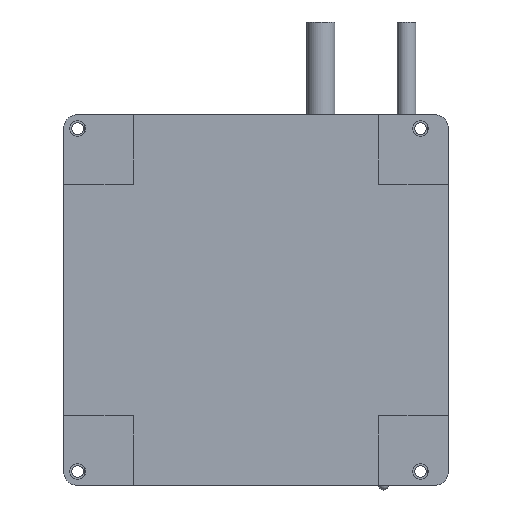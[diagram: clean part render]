
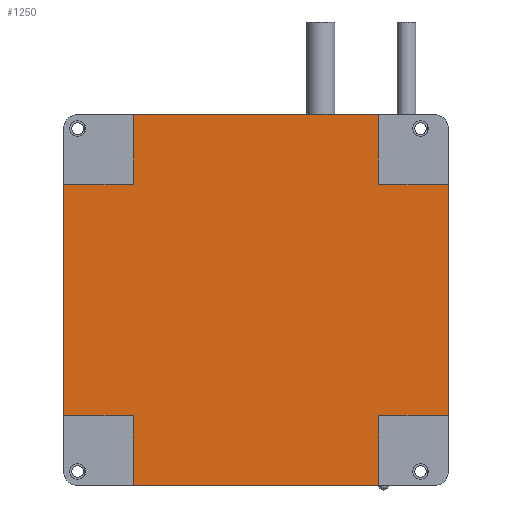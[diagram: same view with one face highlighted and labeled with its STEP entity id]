
A CAD part, front view. The second image highlights one B-rep face of the part: STEP entity #1250.
In plain terms, the highlighted planar face has unit normal (0, -1, 0).
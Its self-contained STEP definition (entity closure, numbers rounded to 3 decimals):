
#49 = DIRECTION ( 'NONE',  ( -1., 0., 0. ) ) ;
#68 = VECTOR ( 'NONE', #5570, 1000. ) ;
#136 = CARTESIAN_POINT ( 'NONE',  ( 26.5, 1., 25. ) ) ;
#233 = ORIENTED_EDGE ( 'NONE', *, *, #4753, .T. ) ;
#488 = CARTESIAN_POINT ( 'NONE',  ( 26.5, 1., -25. ) ) ;
#597 = ORIENTED_EDGE ( 'NONE', *, *, #4273, .T. ) ;
#614 = DIRECTION ( 'NONE',  ( 0., 0., -1. ) ) ;
#706 = CARTESIAN_POINT ( 'NONE',  ( -26.5, 1., -25. ) ) ;
#810 = CARTESIAN_POINT ( 'NONE',  ( 41.5, 1., -25. ) ) ;
#813 = LINE ( 'NONE', #4378, #5370 ) ;
#930 = VERTEX_POINT ( 'NONE', #706 ) ;
#1029 = CARTESIAN_POINT ( 'NONE',  ( -41.5, 1., 0. ) ) ;
#1074 = EDGE_CURVE ( 'NONE', #3737, #1398, #4009, .T. ) ;
#1087 = CARTESIAN_POINT ( 'NONE',  ( -41.5, 1., -25. ) ) ;
#1159 = CARTESIAN_POINT ( 'NONE',  ( 0., 1., -25. ) ) ;
#1174 = CARTESIAN_POINT ( 'NONE',  ( -41.5, 1., -40. ) ) ;
#1250 = ADVANCED_FACE ( 'NONE', ( #1309 ), #2980, .T. ) ;
#1309 = FACE_OUTER_BOUND ( 'NONE', #5650, .T. ) ;
#1348 = CARTESIAN_POINT ( 'NONE',  ( 0., 1., -25. ) ) ;
#1398 = VERTEX_POINT ( 'NONE', #5425 ) ;
#1464 = VECTOR ( 'NONE', #4671, 1000. ) ;
#1514 = EDGE_CURVE ( 'NONE', #2803, #3246, #5678, .T. ) ;
#1516 = EDGE_CURVE ( 'NONE', #3750, #1575, #5380, .T. ) ;
#1575 = VERTEX_POINT ( 'NONE', #136 ) ;
#1709 = CARTESIAN_POINT ( 'NONE',  ( -26.5, 1., 0. ) ) ;
#1817 = CARTESIAN_POINT ( 'NONE',  ( -26.5, 1., 0. ) ) ;
#1893 = LINE ( 'NONE', #2111, #1464 ) ;
#2107 = VECTOR ( 'NONE', #2255, 1000. ) ;
#2111 = CARTESIAN_POINT ( 'NONE',  ( 0., 1., 25. ) ) ;
#2199 = ORIENTED_EDGE ( 'NONE', *, *, #3547, .F. ) ;
#2200 = CARTESIAN_POINT ( 'NONE',  ( 26.5, 1., -40. ) ) ;
#2247 = ORIENTED_EDGE ( 'NONE', *, *, #2699, .F. ) ;
#2255 = DIRECTION ( 'NONE',  ( 0., 0., -1. ) ) ;
#2318 = AXIS2_PLACEMENT_3D ( 'NONE', #4739, #5621, #3399 ) ;
#2320 = CARTESIAN_POINT ( 'NONE',  ( -26.5, 1., -40. ) ) ;
#2359 = LINE ( 'NONE', #1709, #5470 ) ;
#2370 = VERTEX_POINT ( 'NONE', #488 ) ;
#2474 = ORIENTED_EDGE ( 'NONE', *, *, #1516, .F. ) ;
#2482 = VECTOR ( 'NONE', #614, 1000. ) ;
#2513 = LINE ( 'NONE', #1174, #5283 ) ;
#2588 = CARTESIAN_POINT ( 'NONE',  ( 26.5, 1., 40. ) ) ;
#2699 = EDGE_CURVE ( 'NONE', #2803, #4596, #5389, .T. ) ;
#2714 = DIRECTION ( 'NONE',  ( 1., 0., 0. ) ) ;
#2788 = LINE ( 'NONE', #1348, #5153 ) ;
#2803 = VERTEX_POINT ( 'NONE', #3888 ) ;
#2837 = CARTESIAN_POINT ( 'NONE',  ( 41.5, 1., 0. ) ) ;
#2866 = ORIENTED_EDGE ( 'NONE', *, *, #3718, .T. ) ;
#2980 = PLANE ( 'NONE',  #2318 ) ;
#3081 = CARTESIAN_POINT ( 'NONE',  ( -26.5, 1., 40. ) ) ;
#3085 = ORIENTED_EDGE ( 'NONE', *, *, #3908, .T. ) ;
#3100 = VECTOR ( 'NONE', #3582, 1000. ) ;
#3110 = ORIENTED_EDGE ( 'NONE', *, *, #1514, .T. ) ;
#3246 = VERTEX_POINT ( 'NONE', #1087 ) ;
#3301 = DIRECTION ( 'NONE',  ( 0., 0., -1. ) ) ;
#3399 = DIRECTION ( 'NONE',  ( 0., 0., -1. ) ) ;
#3479 = ORIENTED_EDGE ( 'NONE', *, *, #4720, .F. ) ;
#3547 = EDGE_CURVE ( 'NONE', #2370, #5408, #813, .T. ) ;
#3582 = DIRECTION ( 'NONE',  ( 0., 0., 1. ) ) ;
#3718 = EDGE_CURVE ( 'NONE', #5599, #4596, #2359, .T. ) ;
#3737 = VERTEX_POINT ( 'NONE', #810 ) ;
#3750 = VERTEX_POINT ( 'NONE', #2588 ) ;
#3888 = CARTESIAN_POINT ( 'NONE',  ( -41.5, 1., 25. ) ) ;
#3908 = EDGE_CURVE ( 'NONE', #2370, #3737, #2788, .T. ) ;
#3919 = DIRECTION ( 'NONE',  ( 0., 0., -1. ) ) ;
#4009 = LINE ( 'NONE', #2837, #3100 ) ;
#4044 = ORIENTED_EDGE ( 'NONE', *, *, #5235, .T. ) ;
#4203 = CARTESIAN_POINT ( 'NONE',  ( 26.5, 1., 0. ) ) ;
#4240 = EDGE_CURVE ( 'NONE', #930, #5639, #5068, .T. ) ;
#4273 = EDGE_CURVE ( 'NONE', #3750, #5599, #4381, .T. ) ;
#4378 = CARTESIAN_POINT ( 'NONE',  ( 26.5, 1., 0. ) ) ;
#4381 = LINE ( 'NONE', #5369, #4732 ) ;
#4448 = DIRECTION ( 'NONE',  ( 0., 0., -1. ) ) ;
#4503 = LINE ( 'NONE', #1159, #68 ) ;
#4596 = VERTEX_POINT ( 'NONE', #5658 ) ;
#4670 = CARTESIAN_POINT ( 'NONE',  ( 0., 1., 25. ) ) ;
#4671 = DIRECTION ( 'NONE',  ( 1., 0., 0. ) ) ;
#4693 = DIRECTION ( 'NONE',  ( 1., 0., 0. ) ) ;
#4720 = EDGE_CURVE ( 'NONE', #1575, #1398, #1893, .T. ) ;
#4732 = VECTOR ( 'NONE', #49, 1000. ) ;
#4739 = CARTESIAN_POINT ( 'NONE',  ( 0., 1., 0. ) ) ;
#4753 = EDGE_CURVE ( 'NONE', #5639, #5408, #2513, .T. ) ;
#4770 = VECTOR ( 'NONE', #3301, 1000. ) ;
#5068 = LINE ( 'NONE', #1817, #2107 ) ;
#5153 = VECTOR ( 'NONE', #2714, 1000. ) ;
#5235 = EDGE_CURVE ( 'NONE', #3246, #930, #4503, .T. ) ;
#5283 = VECTOR ( 'NONE', #5742, 1000. ) ;
#5296 = ORIENTED_EDGE ( 'NONE', *, *, #4240, .T. ) ;
#5369 = CARTESIAN_POINT ( 'NONE',  ( 0., 1., 40. ) ) ;
#5370 = VECTOR ( 'NONE', #4448, 1000. ) ;
#5380 = LINE ( 'NONE', #4203, #2482 ) ;
#5389 = LINE ( 'NONE', #4670, #5615 ) ;
#5408 = VERTEX_POINT ( 'NONE', #2200 ) ;
#5425 = CARTESIAN_POINT ( 'NONE',  ( 41.5, 1., 25. ) ) ;
#5470 = VECTOR ( 'NONE', #3919, 1000. ) ;
#5501 = ORIENTED_EDGE ( 'NONE', *, *, #1074, .T. ) ;
#5570 = DIRECTION ( 'NONE',  ( 1., 0., 0. ) ) ;
#5599 = VERTEX_POINT ( 'NONE', #3081 ) ;
#5615 = VECTOR ( 'NONE', #4693, 1000. ) ;
#5621 = DIRECTION ( 'NONE',  ( 0., -1., 0. ) ) ;
#5639 = VERTEX_POINT ( 'NONE', #2320 ) ;
#5650 = EDGE_LOOP ( 'NONE', ( #233, #2199, #3085, #5501, #3479, #2474, #597, #2866, #2247, #3110, #4044, #5296 ) ) ;
#5658 = CARTESIAN_POINT ( 'NONE',  ( -26.5, 1., 25. ) ) ;
#5678 = LINE ( 'NONE', #1029, #4770 ) ;
#5742 = DIRECTION ( 'NONE',  ( 1., 0., 0. ) ) ;
